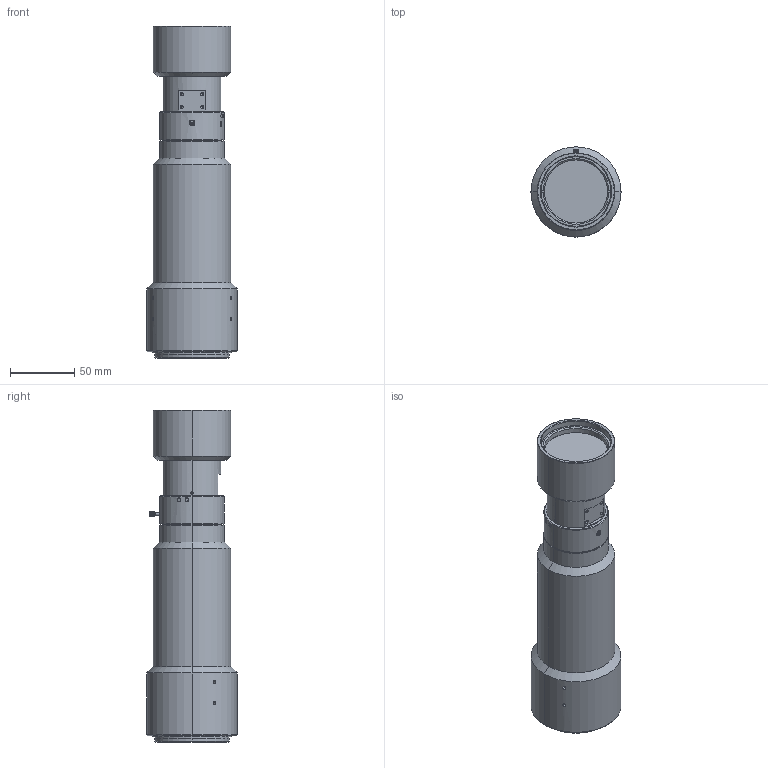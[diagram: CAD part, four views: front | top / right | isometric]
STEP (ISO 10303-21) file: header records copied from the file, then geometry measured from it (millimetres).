
FILE_DESCRIPTION (( 'STEP AP203' ), '1' );
FILE_NAME ('A22565A0000101A.STEP', '2016-11-30T07:50:22', ( '' ), ( '' ), 'SwSTEP 2.0', 'SolidWorks 2014', '' );
FILE_SCHEMA (( 'CONFIG_CONTROL_DESIGN' ));
Length unit declared in the file: millimetre
Products named in the file (1): A22565A0000101A
Bounding box: 70 x 70 x 257.7 mm (x, y, z)
Volume: 677895.3 mm3; surface area: 60035.7 mm2
Topology: 1 solids, 1 shells, 437 faces, 1137 edges, 736 vertices
Faces by surface type: cylinder 165, plane 164, cone 72, bspline 36
Entity records: 21530 total; most frequent: CARTESIAN_POINT 11491, ORIENTED_EDGE 2258, DIRECTION 1771, EDGE_CURVE 1129, VERTEX_POINT 736, AXIS2_PLACEMENT_3D 664, EDGE_LOOP 479, LINE 443
